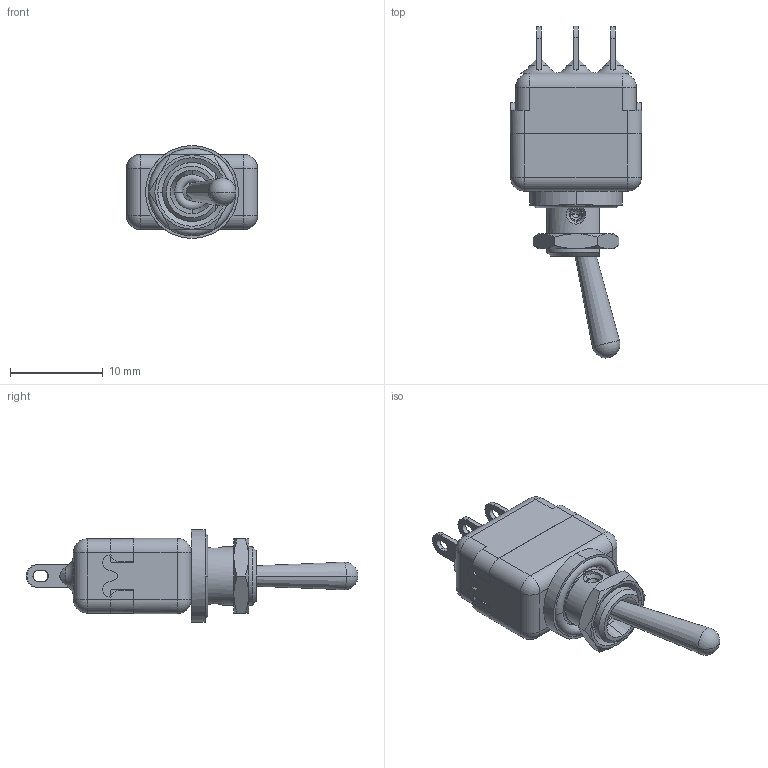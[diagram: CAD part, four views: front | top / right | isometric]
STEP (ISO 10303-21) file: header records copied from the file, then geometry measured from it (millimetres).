
FILE_DESCRIPTION((''),'2;1');
FILE_NAME('11136X408','2010-10-21T',('snouilhan'),(''),'PRO/ENGINEER BY PARAMETRIC TECHNOLOGY CORPORATION, 2009440','PRO/ENGINEER BY PARAMETRIC TECHNOLOGY CORPORATION, 2009440','');
FILE_SCHEMA(('CONFIG_CONTROL_DESIGN'));
Length unit declared in the file: millimetre
Products named in the file (1): 11136X408
Bounding box: 14.2 x 35.78 x 10 mm (x, y, z)
Volume: 1078 mm3; surface area: 2667.2 mm2
Topology: 3 solids, 3 shells, 506 faces, 1427 edges, 908 vertices
Faces by surface type: plane 316, cylinder 104, cone 37, sphere 27, torus 16, bspline 6
Entity records: 17113 total; most frequent: CARTESIAN_POINT 3908, ORIENTED_EDGE 2842, DIRECTION 2682, EDGE_CURVE 1421, VECTOR 960, LINE 960, VERTEX_POINT 908, AXIS2_PLACEMENT_3D 861
